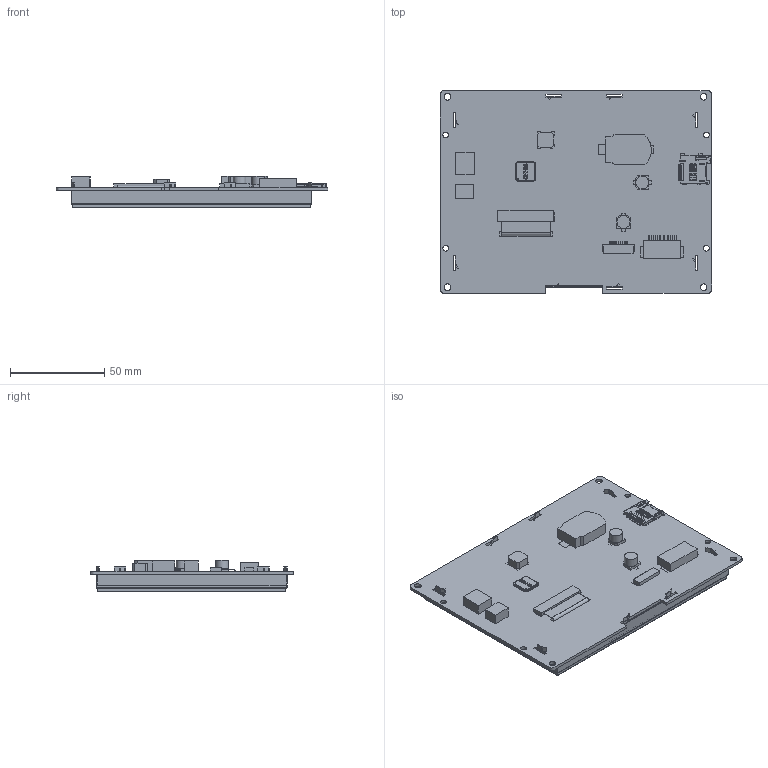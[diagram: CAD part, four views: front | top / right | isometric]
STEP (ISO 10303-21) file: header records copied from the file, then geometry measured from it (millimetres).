
FILE_DESCRIPTION(/* description */ (''),/* implementation_level */ '2;1');
FILE_NAME(/* name */ 'SDWb056T74C.stp',/* time_stamp */ '2024-12-03T18:40:45+08:00',/* author */ (''),/* organization */ (''),/* preprocessor_version */ 'ST-DEVELOPER v16',/* originating_system */ 'SIEMENS PLM Software NX 10.0',/* authorisation */ '');
FILE_SCHEMA (('AP203_CONFIGURATION_CONTROLLED_3D_DESIGN_OF_MECHANICAL_PARTS_AND_ASSEMBLIES_MIM_LF { 1 0 10303 403 2 1 2}'));
Products named in the file (1): SDWb056T74C
Bounding box: 143.51 x 107.41 x 16.82 mm (x, y, z)
Surface area: 195141.8 mm2
Topology: 36 solids, 36 shells, 2671 faces, 7453 edges, 4895 vertices
Faces by surface type: plane 2241, cylinder 421, bspline 7, extrusion 1, cone 1
Full cylindrical faces by diameter (mm): 3 x4, 3.5 x4, 6.776 x2
Entity records: 86528 total; most frequent: CARTESIAN_POINT 15702, ORIENTED_EDGE 14882, DIRECTION 13455, EDGE_CURVE 7441, VECTOR 6499, LINE 6498, VERTEX_POINT 4893, AXIS2_PLACEMENT_3D 3478
